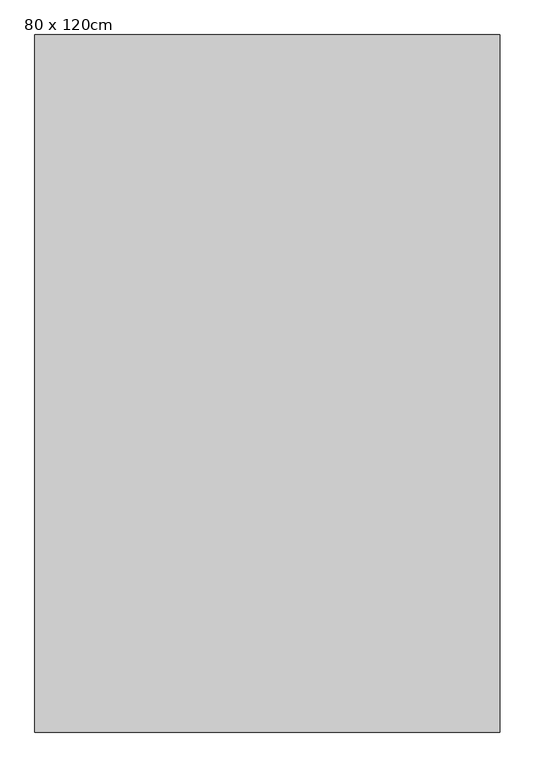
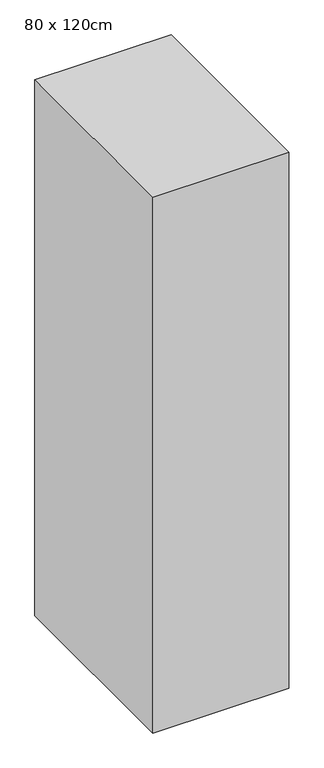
"""IFC4 building model written with IfcOpenShell, lengths in millimetres: column geometry, 混凝土柱-矩形 : 80 x 120cm."""

from ifc_helpers import new_model, si_unit, origin, origin_with_axes, place, context, project, spatial, polyline, outline, extrude, source, transform, mapped, element, save


def column_80_x_120cm_96187e5d(model_context):
    return source(origin(), model_context, "Body", "SweptSolid", [
        extrude(outline(polyline([(400.0, 600.0), (400.0, -600.0), (-400.0, -600.0), (-400.0, 600.0), (400.0, 600.0)])), origin_with_axes(), (0.0, 0.0, 1.0), 3330.0),
    ])


if __name__ == "__main__":
    model = new_model("IFC4")
    model_context = context("Model", 3, world=origin())
    ifc_project = project(units=[si_unit("LENGTHUNIT", "METRE", prefix="MILLI")], contexts=[model_context])
    site = spatial("IfcSite", under=ifc_project)
    building = spatial("IfcBuilding", under=site)
    placement = place(None, origin())
    column_80_x_120cm_shape = column_80_x_120cm_96187e5d(model_context)
    element("IfcColumn", 1, ObjectType="混凝土柱-矩形 : 80 x 120cm", at=placement, inside=building, context=model_context, shape_type="MappedRepresentation", body=[
        mapped(column_80_x_120cm_shape, transform((0.0, 0.0, 0.0), x_axis=(1.0, 0.0, 0.0), y_axis=(0.0, 1.0, 0.0), z_axis=(0.0, 0.0, 1.0))),
    ])
    save(model, "model.ifc")
